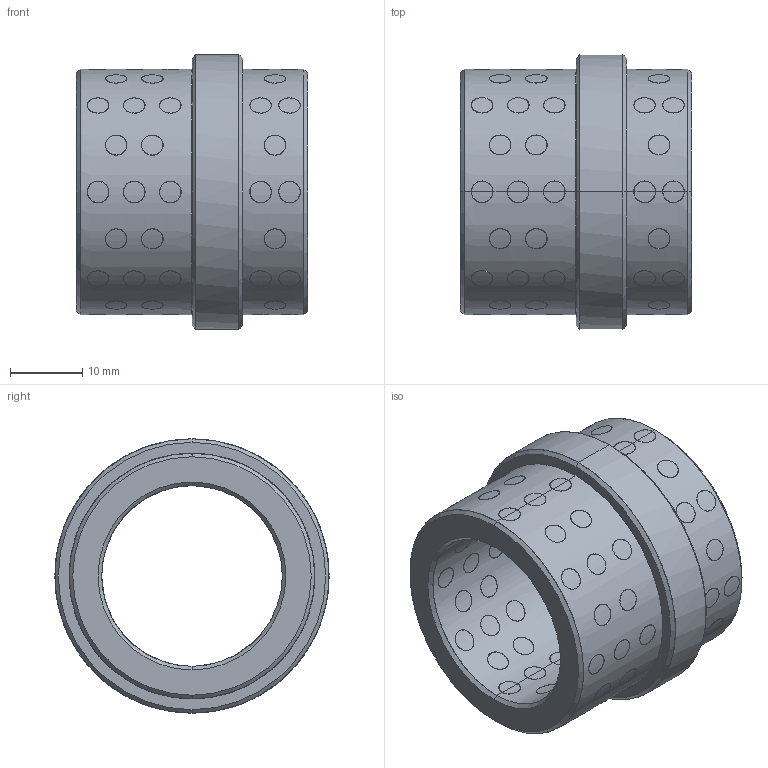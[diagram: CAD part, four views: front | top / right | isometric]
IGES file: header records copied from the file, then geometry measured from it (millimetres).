
Start section: START RECORD GO HERE.
Global section: file name: G4032532.igs; native system: DASSAULT SYSTEMES CATIA V5 R20 - www.3ds.com; preprocessor: CATIA Version 5 Release 20 ; author: r.borello; organization: CFTORINO; date: 20190624.144619; units: millimetre
Bounding box: 32 x 38 x 38 mm (x, y, z)
Surface area: 12494.1 mm2 (no closed solid volume)
Topology: 0 solids, 0 shells, 428 faces, 1872 edges, 1872 vertices
Faces by surface type: revolution 424, plane 4
